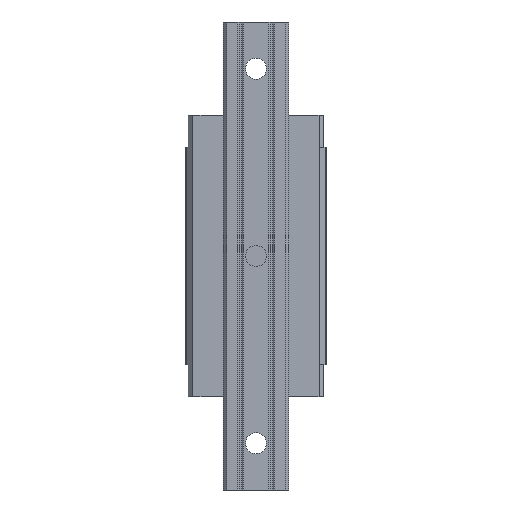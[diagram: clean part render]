
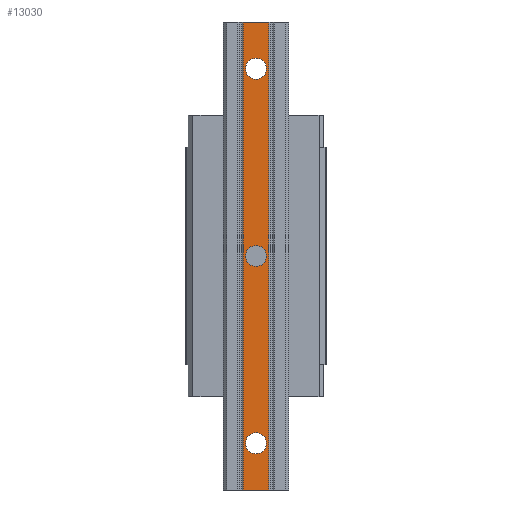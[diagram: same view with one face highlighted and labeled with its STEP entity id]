
A CAD part, front view. The second image highlights one B-rep face of the part: STEP entity #13030.
In plain terms, the highlighted planar face has unit normal (0, -1, 0).
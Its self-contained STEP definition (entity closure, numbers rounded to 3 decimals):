
#24 = AXIS2_PLACEMENT_3D ( 'NONE', #3672, #3886, #5920 ) ;
#108 = CARTESIAN_POINT ( 'NONE',  ( 5.55, -26., -100. ) ) ;
#246 = VERTEX_POINT ( 'NONE', #1854 ) ;
#586 = CIRCLE ( 'NONE', #2162, 4.5 ) ;
#588 = DIRECTION ( 'NONE',  ( -1., 0., 0. ) ) ;
#666 = VERTEX_POINT ( 'NONE', #3268 ) ;
#684 = AXIS2_PLACEMENT_3D ( 'NONE', #11803, #2314, #2384 ) ;
#698 = EDGE_CURVE ( 'NONE', #8290, #10758, #4230, .T. ) ;
#915 = DIRECTION ( 'NONE',  ( 1., 0., 0. ) ) ;
#1133 = AXIS2_PLACEMENT_3D ( 'NONE', #2429, #7465, #1386 ) ;
#1378 = DIRECTION ( 'NONE',  ( -1., 0., 0. ) ) ;
#1386 = DIRECTION ( 'NONE',  ( -1., 0., 0. ) ) ;
#1645 = FACE_BOUND ( 'NONE', #12019, .T. ) ;
#1739 = VERTEX_POINT ( 'NONE', #10530 ) ;
#1854 = CARTESIAN_POINT ( 'NONE',  ( 5.55, -26., -100. ) ) ;
#2087 = CARTESIAN_POINT ( 'NONE',  ( -5.55, -26., -100. ) ) ;
#2150 = CARTESIAN_POINT ( 'NONE',  ( 4.5, -26., -80. ) ) ;
#2162 = AXIS2_PLACEMENT_3D ( 'NONE', #10103, #13431, #588 ) ;
#2200 = CARTESIAN_POINT ( 'NONE',  ( 4.5, -26., 80. ) ) ;
#2314 = DIRECTION ( 'NONE',  ( 0., 1., 0. ) ) ;
#2384 = DIRECTION ( 'NONE',  ( -1., 0., 0. ) ) ;
#2388 = ORIENTED_EDGE ( 'NONE', *, *, #3093, .T. ) ;
#2429 = CARTESIAN_POINT ( 'NONE',  ( 0., -26., -80. ) ) ;
#2684 = VECTOR ( 'NONE', #915, 1000. ) ;
#2902 = ORIENTED_EDGE ( 'NONE', *, *, #13068, .F. ) ;
#3063 = VERTEX_POINT ( 'NONE', #2200 ) ;
#3093 = EDGE_CURVE ( 'NONE', #246, #12529, #9603, .T. ) ;
#3113 = VERTEX_POINT ( 'NONE', #13076 ) ;
#3166 = VERTEX_POINT ( 'NONE', #2087 ) ;
#3268 = CARTESIAN_POINT ( 'NONE',  ( -4.5, -26., 80. ) ) ;
#3378 = ORIENTED_EDGE ( 'NONE', *, *, #9662, .T. ) ;
#3672 = CARTESIAN_POINT ( 'NONE',  ( 0., -26., 80. ) ) ;
#3810 = DIRECTION ( 'NONE',  ( -1., 0., 0. ) ) ;
#3863 = ORIENTED_EDGE ( 'NONE', *, *, #12866, .T. ) ;
#3886 = DIRECTION ( 'NONE',  ( 0., 1., 0. ) ) ;
#4027 = EDGE_CURVE ( 'NONE', #3166, #246, #6771, .T. ) ;
#4230 = CIRCLE ( 'NONE', #1133, 4.5 ) ;
#4469 = CIRCLE ( 'NONE', #6225, 4.5 ) ;
#4629 = ORIENTED_EDGE ( 'NONE', *, *, #9241, .T. ) ;
#4880 = CIRCLE ( 'NONE', #684, 4.5 ) ;
#5004 = DIRECTION ( 'NONE',  ( 0., -1., 0. ) ) ;
#5436 = ORIENTED_EDGE ( 'NONE', *, *, #698, .T. ) ;
#5446 = LINE ( 'NONE', #7523, #8230 ) ;
#5492 = VERTEX_POINT ( 'NONE', #12785 ) ;
#5783 = ORIENTED_EDGE ( 'NONE', *, *, #9992, .T. ) ;
#5831 = PLANE ( 'NONE',  #11752 ) ;
#5896 = FACE_BOUND ( 'NONE', #13481, .T. ) ;
#5920 = DIRECTION ( 'NONE',  ( -1., 0., 0. ) ) ;
#5966 = CIRCLE ( 'NONE', #24, 4.5 ) ;
#6225 = AXIS2_PLACEMENT_3D ( 'NONE', #13072, #9693, #1378 ) ;
#6771 = LINE ( 'NONE', #9060, #8936 ) ;
#7085 = FACE_BOUND ( 'NONE', #8646, .T. ) ;
#7155 = DIRECTION ( 'NONE',  ( 0., 0., -1. ) ) ;
#7394 = EDGE_CURVE ( 'NONE', #3063, #666, #586, .T. ) ;
#7457 = DIRECTION ( 'NONE',  ( 0., 0., -1. ) ) ;
#7465 = DIRECTION ( 'NONE',  ( 0., 1., 0. ) ) ;
#7523 = CARTESIAN_POINT ( 'NONE',  ( -5.55, -26., -100. ) ) ;
#7995 = CARTESIAN_POINT ( 'NONE',  ( -5.55, -26., -100. ) ) ;
#8230 = VECTOR ( 'NONE', #7457, 1000. ) ;
#8290 = VERTEX_POINT ( 'NONE', #8619 ) ;
#8619 = CARTESIAN_POINT ( 'NONE',  ( -4.5, -26., -80. ) ) ;
#8646 = EDGE_LOOP ( 'NONE', ( #5783, #3863 ) ) ;
#8762 = ORIENTED_EDGE ( 'NONE', *, *, #4027, .T. ) ;
#8917 = DIRECTION ( 'NONE',  ( 0., 0., 1. ) ) ;
#8936 = VECTOR ( 'NONE', #10042, 1000. ) ;
#9060 = CARTESIAN_POINT ( 'NONE',  ( 0., -26., -100. ) ) ;
#9241 = EDGE_CURVE ( 'NONE', #666, #3063, #5966, .T. ) ;
#9448 = EDGE_CURVE ( 'NONE', #10758, #8290, #4880, .T. ) ;
#9457 = DIRECTION ( 'NONE',  ( 0., 1., 0. ) ) ;
#9592 = CIRCLE ( 'NONE', #9811, 4.5 ) ;
#9603 = LINE ( 'NONE', #108, #11356 ) ;
#9662 = EDGE_CURVE ( 'NONE', #5492, #3166, #5446, .T. ) ;
#9693 = DIRECTION ( 'NONE',  ( 0., 1., 0. ) ) ;
#9811 = AXIS2_PLACEMENT_3D ( 'NONE', #12655, #9457, #3810 ) ;
#9992 = EDGE_CURVE ( 'NONE', #1739, #3113, #9592, .T. ) ;
#10042 = DIRECTION ( 'NONE',  ( 1., 0., 0. ) ) ;
#10084 = LINE ( 'NONE', #13689, #2684 ) ;
#10103 = CARTESIAN_POINT ( 'NONE',  ( 0., -26., 80. ) ) ;
#10214 = FACE_OUTER_BOUND ( 'NONE', #11884, .T. ) ;
#10530 = CARTESIAN_POINT ( 'NONE',  ( -4.5, -26., 0. ) ) ;
#10758 = VERTEX_POINT ( 'NONE', #2150 ) ;
#11356 = VECTOR ( 'NONE', #8917, 1000. ) ;
#11705 = ORIENTED_EDGE ( 'NONE', *, *, #9448, .T. ) ;
#11752 = AXIS2_PLACEMENT_3D ( 'NONE', #7995, #5004, #7155 ) ;
#11803 = CARTESIAN_POINT ( 'NONE',  ( 0., -26., -80. ) ) ;
#11884 = EDGE_LOOP ( 'NONE', ( #3378, #8762, #2388, #2902 ) ) ;
#12019 = EDGE_LOOP ( 'NONE', ( #4629, #12982 ) ) ;
#12496 = CARTESIAN_POINT ( 'NONE',  ( 5.55, -26., 100. ) ) ;
#12529 = VERTEX_POINT ( 'NONE', #12496 ) ;
#12655 = CARTESIAN_POINT ( 'NONE',  ( 0., -26., 0. ) ) ;
#12785 = CARTESIAN_POINT ( 'NONE',  ( -5.55, -26., 100. ) ) ;
#12866 = EDGE_CURVE ( 'NONE', #3113, #1739, #4469, .T. ) ;
#12982 = ORIENTED_EDGE ( 'NONE', *, *, #7394, .T. ) ;
#13030 = ADVANCED_FACE ( 'NONE', ( #7085, #1645, #5896, #10214 ), #5831, .T. ) ;
#13068 = EDGE_CURVE ( 'NONE', #5492, #12529, #10084, .T. ) ;
#13072 = CARTESIAN_POINT ( 'NONE',  ( 0., -26., 0. ) ) ;
#13076 = CARTESIAN_POINT ( 'NONE',  ( 4.5, -26., 0. ) ) ;
#13431 = DIRECTION ( 'NONE',  ( 0., 1., 0. ) ) ;
#13481 = EDGE_LOOP ( 'NONE', ( #5436, #11705 ) ) ;
#13689 = CARTESIAN_POINT ( 'NONE',  ( 0., -26., 100. ) ) ;
